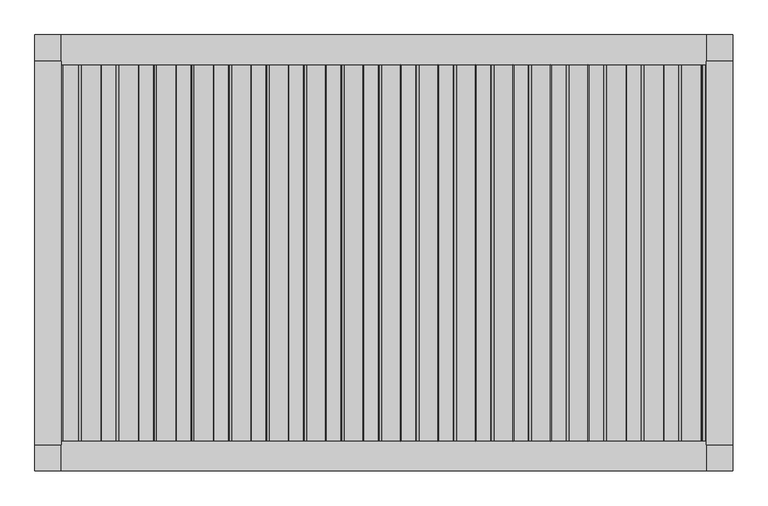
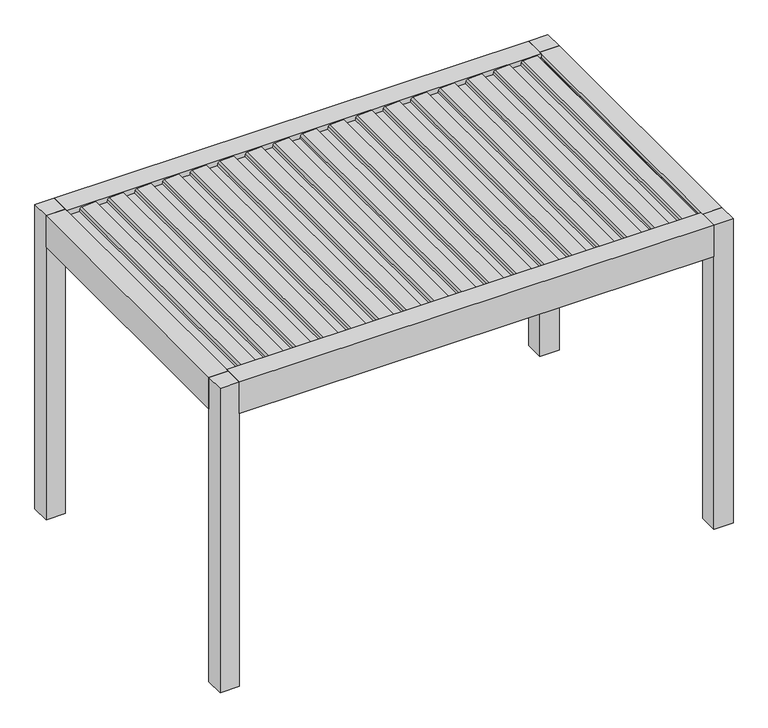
"""IFC4 building model written with IfcOpenShell, lengths in millimetres: proxy geometry, Renson_Camargue_Skye_Freestanding_Patio covers : Renson_Camargue_Skye_Freestanding_Patio covers."""

from ifc_helpers import new_model, si_unit, point, frame, frame_2d, origin, origin_with_axes, place, context, project, spatial, polyline, circle_curve, trimmed, segment, composite_curve, outline, extrude, source, transform, mapped, element, save


def generic_models_076aa895(model_context):
    return source(origin(), model_context, "Body", "SweptSolid", [
        extrude(outline(composite_curve([segment(polyline([(2458.35, 1573.7338351), (2486.01198, 1576.1539448), (2487.3970364, 1604.9891952), (2506.8911096, 1601.5518641), (2501.6075693, 1491.5547493)]), True, "CONTINUOUS"), segment(trimmed(circle_curve(frame_2d((2486.6248435, 1492.2744212)), 15.0), [point((2501.6075693, 1491.5547493))], [point((2489.2295662, 1477.5023049))], False, "CARTESIAN"), True, "CONTINUOUS"), segment(polyline([(2489.2295662, 1477.5023049), (2470.0, 1474.1116136), (2470.0, 1386.3758376), (2487.0788237, 1383.3643801), (2486.3450182, 1368.0874097), (2458.35, 1365.6381629), (2458.35, 1573.7338351)]), True, "CONTINUOUS")], self_intersect=False)), frame((0.0, -1080.0, 0.0), z_axis=(0.0, 1.0, 0.0), x_axis=(0.0, 0.0, 1.0)), (0.0, 0.0, 1.0), 2160.0),
        extrude(outline(composite_curve([segment(polyline([(2458.35, 1358.7230303), (2486.01198, 1361.14314), (2487.3970364, 1389.9783904), (2506.8911096, 1386.5410594), (2501.6075693, 1276.5439445)]), True, "CONTINUOUS"), segment(trimmed(circle_curve(frame_2d((2486.6248435, 1277.2636164)), 15.0), [point((2501.6075693, 1276.5439445))], [point((2489.2295662, 1262.4915001))], False, "CARTESIAN"), True, "CONTINUOUS"), segment(polyline([(2489.2295662, 1262.4915001), (2470.0, 1259.1008088), (2470.0, 1171.3650328), (2487.0788237, 1168.3535754), (2486.3450182, 1153.0766049), (2458.35, 1150.6273582), (2458.35, 1358.7230303)]), True, "CONTINUOUS")], self_intersect=False)), frame((0.0, -1080.0, 0.0), z_axis=(0.0, 1.0, 0.0), x_axis=(0.0, 0.0, 1.0)), (0.0, 0.0, 1.0), 2160.0),
        extrude(outline(composite_curve([segment(polyline([(2458.35, 1143.7122255), (2486.01198, 1146.1323352), (2487.3970364, 1174.9675857), (2506.8911096, 1171.5302546), (2501.6075693, 1061.5331397)]), True, "CONTINUOUS"), segment(trimmed(circle_curve(frame_2d((2486.6248435, 1062.2528117)), 15.0), [point((2501.6075693, 1061.5331397))], [point((2489.2295662, 1047.4806954))], False, "CARTESIAN"), True, "CONTINUOUS"), segment(polyline([(2489.2295662, 1047.4806954), (2470.0, 1044.090004), (2470.0, 956.354228), (2487.0788237, 953.3427706), (2486.3450182, 938.0658001), (2458.35, 935.6165534), (2458.35, 1143.7122255)]), True, "CONTINUOUS")], self_intersect=False)), frame((0.0, -1080.0, 0.0), z_axis=(0.0, 1.0, 0.0), x_axis=(0.0, 0.0, 1.0)), (0.0, 0.0, 1.0), 2160.0),
        extrude(outline(composite_curve([segment(polyline([(2458.35, 928.7014208), (2486.01198, 931.1215304), (2487.3970364, 959.9567809), (2506.8911096, 956.5194498), (2501.6075693, 846.5223349)]), True, "CONTINUOUS"), segment(trimmed(circle_curve(frame_2d((2486.6248435, 847.2420069)), 15.0), [point((2501.6075693, 846.5223349))], [point((2489.2295662, 832.4698906))], False, "CARTESIAN"), True, "CONTINUOUS"), segment(polyline([(2489.2295662, 832.4698906), (2470.0, 829.0791992), (2470.0, 741.3434232), (2487.0788237, 738.3319658), (2486.3450182, 723.0549953), (2458.35, 720.6057486), (2458.35, 928.7014208)]), True, "CONTINUOUS")], self_intersect=False)), frame((0.0, -1080.0, 0.0), z_axis=(0.0, 1.0, 0.0), x_axis=(0.0, 0.0, 1.0)), (0.0, 0.0, 1.0), 2160.0),
        extrude(outline(composite_curve([segment(polyline([(2458.35, 713.690616), (2486.01198, 716.1107256), (2487.3970364, 744.9459761), (2506.8911096, 741.508645), (2501.6075693, 631.5115302)]), True, "CONTINUOUS"), segment(trimmed(circle_curve(frame_2d((2486.6248435, 632.2312021)), 15.0), [point((2501.6075693, 631.5115302))], [point((2489.2295662, 617.4590858))], False, "CARTESIAN"), True, "CONTINUOUS"), segment(polyline([(2489.2295662, 617.4590858), (2470.0, 614.0683945), (2470.0, 526.3326184), (2487.0788237, 523.321161), (2486.3450182, 508.0441905), (2458.35, 505.5949438), (2458.35, 713.690616)]), True, "CONTINUOUS")], self_intersect=False)), frame((0.0, -1080.0, 0.0), z_axis=(0.0, 1.0, 0.0), x_axis=(0.0, 0.0, 1.0)), (0.0, 0.0, 1.0), 2160.0),
        extrude(outline(composite_curve([segment(polyline([(2458.35, 498.6798112), (2486.01198, 501.0999209), (2487.3970364, 529.9351713), (2506.8911096, 526.4978402), (2501.6075693, 416.5007254)]), True, "CONTINUOUS"), segment(trimmed(circle_curve(frame_2d((2486.6248435, 417.2203973)), 15.0), [point((2501.6075693, 416.5007254))], [point((2489.2295662, 402.448281))], False, "CARTESIAN"), True, "CONTINUOUS"), segment(polyline([(2489.2295662, 402.448281), (2470.0, 399.0575897), (2470.0, 311.3218136), (2487.0788237, 308.3103562), (2486.3450182, 293.0333858), (2458.35, 290.584139), (2458.35, 498.6798112)]), True, "CONTINUOUS")], self_intersect=False)), frame((0.0, -1080.0, 0.0), z_axis=(0.0, 1.0, 0.0), x_axis=(0.0, 0.0, 1.0)), (0.0, 0.0, 1.0), 2160.0),
        extrude(outline(composite_curve([segment(polyline([(2458.35, 283.6690064), (2486.01198, 286.0891161), (2487.3970364, 314.9243665), (2506.8911096, 311.4870355), (2501.6075693, 201.4899206)]), True, "CONTINUOUS"), segment(trimmed(circle_curve(frame_2d((2486.6248435, 202.2095925)), 15.0), [point((2501.6075693, 201.4899206))], [point((2489.2295662, 187.4374762))], False, "CARTESIAN"), True, "CONTINUOUS"), segment(polyline([(2489.2295662, 187.4374762), (2470.0, 184.0467849), (2470.0, 96.3110089), (2487.0788237, 93.2995515), (2486.3450182, 78.022581), (2458.35, 75.5733343), (2458.35, 283.6690064)]), True, "CONTINUOUS")], self_intersect=False)), frame((0.0, -1080.0, 0.0), z_axis=(0.0, 1.0, 0.0), x_axis=(0.0, 0.0, 1.0)), (0.0, 0.0, 1.0), 2160.0),
        extrude(outline(composite_curve([segment(polyline([(2458.35, 68.6582016), (2486.01198, 71.0783113), (2487.3970364, 99.9135617), (2506.8911096, 96.4762307), (2501.6075693, -13.5208842)]), True, "CONTINUOUS"), segment(trimmed(circle_curve(frame_2d((2486.6248435, -12.8012122)), 15.0), [point((2501.6075693, -13.5208842))], [point((2489.2295662, -27.5733285))], False, "CARTESIAN"), True, "CONTINUOUS"), segment(polyline([(2489.2295662, -27.5733285), (2470.0, -30.9640199), (2470.0, -118.6997959), (2487.0788237, -121.7112533), (2486.3450182, -136.9882238), (2458.35, -139.4374705), (2458.35, 68.6582016)]), True, "CONTINUOUS")], self_intersect=False)), frame((0.0, -1080.0, 0.0), z_axis=(0.0, 1.0, 0.0), x_axis=(0.0, 0.0, 1.0)), (0.0, 0.0, 1.0), 2160.0),
        extrude(outline(composite_curve([segment(polyline([(2458.35, -146.3526032), (2486.01198, -143.9324935), (2487.3970364, -115.097243), (2506.8911096, -118.5345741), (2501.6075693, -228.531689)]), True, "CONTINUOUS"), segment(trimmed(circle_curve(frame_2d((2486.6248435, -227.812017)), 15.0), [point((2501.6075693, -228.531689))], [point((2489.2295662, -242.5841333))], False, "CARTESIAN"), True, "CONTINUOUS"), segment(polyline([(2489.2295662, -242.5841333), (2470.0, -245.9748247), (2470.0, -333.7106007), (2487.0788237, -336.7220581), (2486.3450182, -351.9990286), (2458.35, -354.4482753), (2458.35, -146.3526032)]), True, "CONTINUOUS")], self_intersect=False)), frame((0.0, -1080.0, 0.0), z_axis=(0.0, 1.0, 0.0), x_axis=(0.0, 0.0, 1.0)), (0.0, 0.0, 1.0), 2160.0),
        extrude(outline(composite_curve([segment(polyline([(2458.35, -361.3634079), (2486.01198, -358.9432983), (2487.3970364, -330.1080478), (2506.8911096, -333.5453789), (2501.6075693, -443.5424937)]), True, "CONTINUOUS"), segment(trimmed(circle_curve(frame_2d((2486.6248435, -442.8228218)), 15.0), [point((2501.6075693, -443.5424937))], [point((2489.2295662, -457.5949381))], False, "CARTESIAN"), True, "CONTINUOUS"), segment(polyline([(2489.2295662, -457.5949381), (2470.0, -460.9856294), (2470.0, -548.7214055), (2487.0788237, -551.7328629), (2486.3450182, -567.0098334), (2458.35, -569.4590801), (2458.35, -361.3634079)]), True, "CONTINUOUS")], self_intersect=False)), frame((0.0, -1080.0, 0.0), z_axis=(0.0, 1.0, 0.0), x_axis=(0.0, 0.0, 1.0)), (0.0, 0.0, 1.0), 2160.0),
        extrude(outline(composite_curve([segment(polyline([(2458.35, -576.3742127), (2486.01198, -573.9541031), (2487.3970364, -545.1188526), (2506.8911096, -548.5561837), (2501.6075693, -658.5532985)]), True, "CONTINUOUS"), segment(trimmed(circle_curve(frame_2d((2486.6248435, -657.8336266)), 15.0), [point((2501.6075693, -658.5532985))], [point((2489.2295662, -672.6057429))], False, "CARTESIAN"), True, "CONTINUOUS"), segment(polyline([(2489.2295662, -672.6057429), (2470.0, -675.9964342), (2470.0, -763.7322103), (2487.0788237, -766.7436677), (2486.3450182, -782.0206381), (2458.35, -784.4698849), (2458.35, -576.3742127)]), True, "CONTINUOUS")], self_intersect=False)), frame((0.0, -1080.0, 0.0), z_axis=(0.0, 1.0, 0.0), x_axis=(0.0, 0.0, 1.0)), (0.0, 0.0, 1.0), 2160.0),
        extrude(outline(composite_curve([segment(polyline([(2458.35, -791.3850175), (2486.01198, -788.9649078), (2487.3970364, -760.1296574), (2506.8911096, -763.5669885), (2501.6075693, -873.5641033)]), True, "CONTINUOUS"), segment(trimmed(circle_curve(frame_2d((2486.6248435, -872.8444314)), 15.0), [point((2501.6075693, -873.5641033))], [point((2489.2295662, -887.6165477))], False, "CARTESIAN"), True, "CONTINUOUS"), segment(polyline([(2489.2295662, -887.6165477), (2470.0, -891.007239), (2470.0, -978.743015), (2487.0788237, -981.7544725), (2486.3450182, -997.0314429), (2458.35, -999.4806897), (2458.35, -791.3850175)]), True, "CONTINUOUS")], self_intersect=False)), frame((0.0, -1080.0, 0.0), z_axis=(0.0, 1.0, 0.0), x_axis=(0.0, 0.0, 1.0)), (0.0, 0.0, 1.0), 2160.0),
        extrude(outline(composite_curve([segment(polyline([(2458.35, -1006.3958223), (2486.01198, -1003.9757126), (2487.3970364, -975.1404622), (2506.8911096, -978.5777932), (2501.6075693, -1088.5749081)]), True, "CONTINUOUS"), segment(trimmed(circle_curve(frame_2d((2486.6248435, -1087.8552362)), 15.0), [point((2501.6075693, -1088.5749081))], [point((2489.2295662, -1102.6273525))], False, "CARTESIAN"), True, "CONTINUOUS"), segment(polyline([(2489.2295662, -1102.6273525), (2470.0, -1106.0180438), (2470.0, -1193.7538198), (2487.0788237, -1196.7652772), (2486.3450182, -1212.0422477), (2458.35, -1214.4914944), (2458.35, -1006.3958223)]), True, "CONTINUOUS")], self_intersect=False)), frame((0.0, -1080.0, 0.0), z_axis=(0.0, 1.0, 0.0), x_axis=(0.0, 0.0, 1.0)), (0.0, 0.0, 1.0), 2160.0),
        extrude(outline(composite_curve([segment(polyline([(2458.35, -1221.4066271), (2486.01198, -1218.9865174), (2487.3970364, -1190.1512669), (2506.8911096, -1193.588598), (2501.6075693, -1303.5857129)]), True, "CONTINUOUS"), segment(trimmed(circle_curve(frame_2d((2486.6248435, -1302.8660409)), 15.0), [point((2501.6075693, -1303.5857129))], [point((2489.2295662, -1317.6381572))], False, "CARTESIAN"), True, "CONTINUOUS"), segment(polyline([(2489.2295662, -1317.6381572), (2470.0, -1321.0288486), (2470.0, -1408.7646246), (2487.0788237, -1411.776082), (2486.3450182, -1427.0530525), (2458.35, -1429.5022992), (2458.35, -1221.4066271)]), True, "CONTINUOUS")], self_intersect=False)), frame((0.0, -1080.0, 0.0), z_axis=(0.0, 1.0, 0.0), x_axis=(0.0, 0.0, 1.0)), (0.0, 0.0, 1.0), 2160.0),
        extrude(outline(composite_curve([segment(polyline([(2458.35, -1436.4174318), (2486.01198, -1433.9973222), (2487.3970364, -1405.1620717), (2506.8911096, -1408.5994028), (2501.6075693, -1518.5965176)]), True, "CONTINUOUS"), segment(trimmed(circle_curve(frame_2d((2486.6248435, -1517.8768457)), 15.0), [point((2501.6075693, -1518.5965176))], [point((2489.2295662, -1532.648962))], False, "CARTESIAN"), True, "CONTINUOUS"), segment(polyline([(2489.2295662, -1532.648962), (2470.0, -1536.0396534), (2470.0, -1623.7754294), (2487.0788237, -1626.7868868), (2486.3450182, -1642.0638573), (2458.35, -1644.513104), (2458.35, -1436.4174318)]), True, "CONTINUOUS")], self_intersect=False)), frame((0.0, -1080.0, 0.0), z_axis=(0.0, 1.0, 0.0), x_axis=(0.0, 0.0, 1.0)), (0.0, 0.0, 1.0), 2160.0),
        extrude(outline(composite_curve([segment(polyline([(2458.35, 1788.7446399), (2486.01198, 1791.1647495), (2487.3970364, 1820.0), (2506.8911096, 1816.5626689), (2501.6075693, 1706.5655541)]), True, "CONTINUOUS"), segment(trimmed(circle_curve(frame_2d((2486.6248435, 1707.285226)), 15.0), [point((2501.6075693, 1706.5655541))], [point((2489.2295662, 1692.5131097))], False, "CARTESIAN"), True, "CONTINUOUS"), segment(polyline([(2489.2295662, 1692.5131097), (2470.0, 1689.1224184), (2470.0, 1601.3866423), (2487.0788237, 1598.3751849), (2486.3450182, 1583.0982144), (2458.35, 1580.6489677), (2458.35, 1788.7446399)]), True, "CONTINUOUS")], self_intersect=False)), frame((0.0, -1080.0, 0.0), z_axis=(0.0, 1.0, 0.0), x_axis=(0.0, 0.0, 1.0)), (0.0, 0.0, 1.0), 2160.0),
        extrude(outline(composite_curve([segment(polyline([(2458.35, -1651.4282366), (2486.01198, -1649.008127), (2487.3970364, -1620.1728765), (2506.8911096, -1623.6102076), (2501.6075693, -1733.6073224)]), True, "CONTINUOUS"), segment(trimmed(circle_curve(frame_2d((2486.6248435, -1732.8876505)), 15.0), [point((2501.6075693, -1733.6073224))], [point((2489.2295662, -1747.6597668))], False, "CARTESIAN"), True, "CONTINUOUS"), segment(polyline([(2489.2295662, -1747.6597668), (2470.0, -1751.0504581), (2470.0, -1838.7862342), (2487.0788237, -1841.7976916), (2486.3450182, -1857.0746621), (2458.35, -1859.5239088), (2458.35, -1651.4282366)]), True, "CONTINUOUS")], self_intersect=False)), frame((0.0, -1080.0, 0.0), z_axis=(0.0, 1.0, 0.0), x_axis=(0.0, 0.0, 1.0)), (0.0, 0.0, 1.0), 2160.0),
        extrude(outline(polyline([(2441.6559373, -1850.0), (2441.6559373, -1824.0), (2455.6555802, -1820.2487113), (2455.6555802, -1829.5940945), (2471.400763, -1845.0), (2479.2449277, -1845.0), (2479.6823598, -1850.0), (2441.6559373, -1850.0)])), frame((0.0, -1100.0, 0.0), z_axis=(0.0, 1.0, 0.0), x_axis=(0.0, 0.0, 1.0)), (0.0, 0.0, 1.0), 2200.0),
        extrude(outline(polyline([(-1850.0, -1100.0), (-2000.0, -1100.0), (-2000.0, 1100.0), (-1850.0, 1100.0), (-1850.0, -1100.0)])), frame((0.0, 0.0, 2250.0), z_axis=(0.0, 0.0, 1.0), x_axis=(1.0, 0.0, 0.0)), (0.0, 0.0, 1.0), 260.0),
        extrude(outline(polyline([(2510.0, 2000.0), (2510.0, 1850.0), (2479.6904658, 1850.0), (2479.2449277, 1845.0), (2471.400763, 1845.0), (2455.6555802, 1829.2544156), (2455.6555802, 1819.9090324), (2441.6559373, 1823.6603211), (2441.6559373, 1850.0), (2250.0, 1850.0), (2250.0, 2000.0), (2510.0, 2000.0)])), frame((0.0, -1100.0, 0.0), z_axis=(0.0, 1.0, 0.0), x_axis=(0.0, 0.0, 1.0)), (0.0, 0.0, 1.0), 2200.0),
        extrude(outline(polyline([(-1080.0, 2510.0), (-1080.0, 2322.0), (-1020.0, 2322.0), (-1020.0, 2250.0), (-1250.0, 2250.0), (-1250.0, 2510.0), (-1080.0, 2510.0)])), frame((-1850.0, 0.0, 0.0), z_axis=(1.0, 0.0, 0.0), x_axis=(0.0, 1.0, 0.0)), (0.0, 0.0, 1.0), 3700.0),
        extrude(outline(polyline([(1250.0, 2250.0), (1020.0, 2250.0), (1020.0, 2322.0), (1080.0, 2322.0), (1080.0, 2510.0), (1250.0, 2510.0), (1250.0, 2250.0)])), frame((-1850.0, 0.0, 0.0), z_axis=(1.0, 0.0, 0.0), x_axis=(0.0, 1.0, 0.0)), (0.0, 0.0, 1.0), 3700.0),
        extrude(outline(polyline([(-1850.0, 1250.0), (-1850.0, 1100.0), (-2000.0, 1100.0), (-2000.0, 1250.0), (-1850.0, 1250.0)])), origin_with_axes(), (0.0, 0.0, 1.0), 2510.0),
        extrude(outline(polyline([(2000.0, 1250.0), (2000.0, 1100.0), (1850.0, 1100.0), (1850.0, 1250.0), (2000.0, 1250.0)])), origin_with_axes(), (0.0, 0.0, 1.0), 2510.0),
        extrude(outline(polyline([(2000.0, -1100.0), (2000.0, -1250.0), (1850.0, -1250.0), (1850.0, -1100.0), (2000.0, -1100.0)])), origin_with_axes(), (0.0, 0.0, 1.0), 2510.0),
        extrude(outline(polyline([(-1850.0, -1100.0), (-1850.0, -1250.0), (-2000.0, -1250.0), (-2000.0, -1100.0), (-1850.0, -1100.0)])), origin_with_axes(), (0.0, 0.0, 1.0), 2510.0),
    ])


if __name__ == "__main__":
    model = new_model("IFC4")
    model_context = context("Model", 3, world=origin())
    ifc_project = project(units=[si_unit("LENGTHUNIT", "METRE", prefix="MILLI")], contexts=[model_context])
    site = spatial("IfcSite", under=ifc_project)
    building = spatial("IfcBuilding", under=site)
    placement = place(None, origin())
    generic_models_shape = generic_models_076aa895(model_context)
    element("IfcBuildingElementProxy", 1, Name="Renson_Camargue_Skye_Freestanding_Patio covers : Renson_Camargue_Skye_Freestanding_Patio covers", ObjectType="Renson_Camargue_Skye_Freestanding_Patio covers : Renson_Camargue_Skye_Freestanding_Patio covers", at=placement, inside=building, context=model_context, shape_type="MappedRepresentation", body=[
        mapped(generic_models_shape, transform((0.0, 0.0, 0.0), x_axis=(1.0, 0.0, 0.0), y_axis=(0.0, 1.0, 0.0), z_axis=(0.0, 0.0, 1.0))),
    ])
    save(model, "model.ifc")
